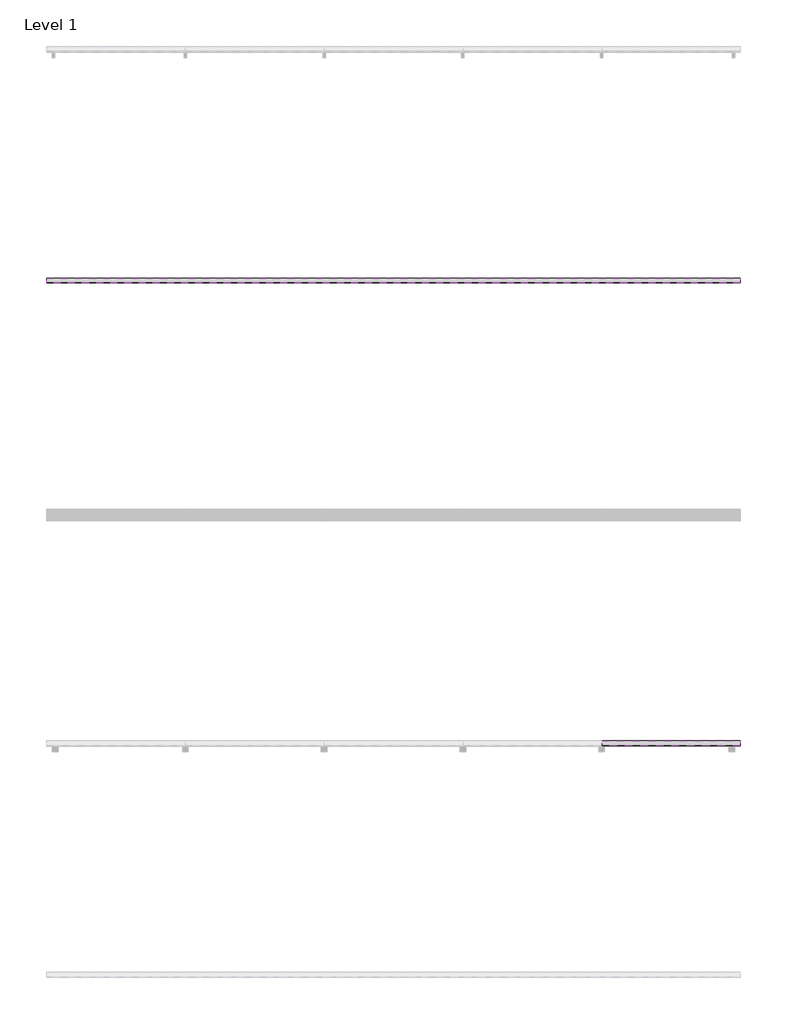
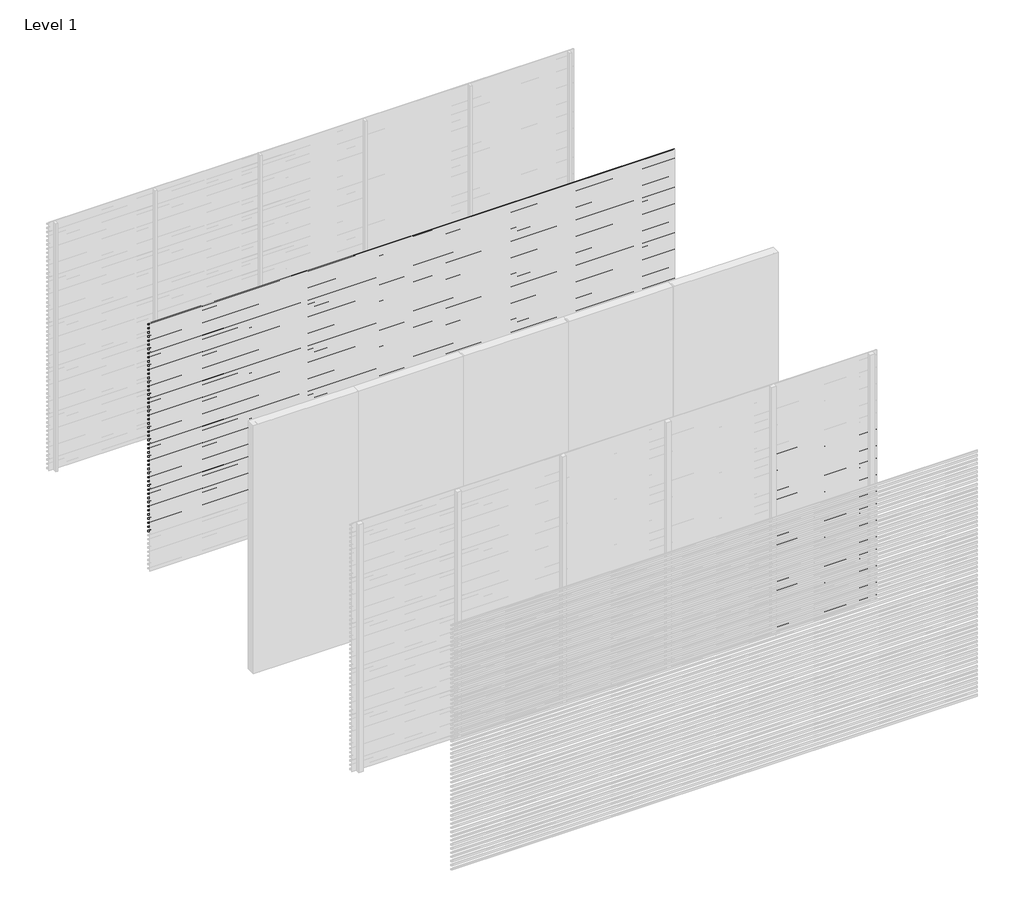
# One storey, part 9 of 16: 94 proxies.
"""IFC4 building model written with IfcOpenShell, lengths in millimetres."""

from ifc_helpers import new_model, si_unit, frame, origin, place, context, project, spatial, polyline, outline, extrude, element, save

model = new_model("IFC4")

# Units and contexts
model_context = context("Model", 3, world=origin())
ifc_project = project(units=[si_unit("LENGTHUNIT", "METRE", prefix="MILLI")], contexts=[model_context])

# Site, building, storey
site = spatial("IfcSite", under=ifc_project)
building = spatial("IfcBuilding", under=site)
storey = spatial("IfcBuildingStorey", under=building, Name="Level 1", Elevation=0.0)

# Proxies
placement = place(None, origin())
element("IfcBuildingElementProxy", 1, Name="Wall Sweeps", at=placement, inside=storey, context=model_context, shape_type="SweptSolid", body=[
    extrude(outline(polyline([(-7995.0, 3000.0), (-7995.0, 2989.6352854), (-7954.0, 2965.0), (-7954.0, 2950.0), (-7997.0, 2975.8370066), (-7997.0, 3000.0), (-7995.0, 3000.0)])), frame((0.0, 0.0, 0.0), z_axis=(1.0, 0.0, 0.0), x_axis=(0.0, 1.0, 0.0)), (0.0, 0.0, 1.0), 6000.0),
])
element("IfcBuildingElementProxy", 2, Name="Wall Sweeps", at=placement, inside=storey, context=model_context, shape_type="SweptSolid", body=[
    extrude(outline(polyline([(-7995.0, 2950.0), (-7995.0, 2939.6352854), (-7954.0, 2915.0), (-7954.0, 2900.0), (-7997.0, 2925.8370066), (-7997.0, 2950.0), (-7995.0, 2950.0)])), frame((0.0, 0.0, 0.0), z_axis=(1.0, 0.0, 0.0), x_axis=(0.0, 1.0, 0.0)), (0.0, 0.0, 1.0), 6000.0),
])
element("IfcBuildingElementProxy", 3, Name="Wall Sweeps", at=placement, inside=storey, context=model_context, shape_type="SweptSolid", body=[
    extrude(outline(polyline([(-7995.0, 2900.0), (-7995.0, 2889.6352854), (-7954.0, 2865.0), (-7954.0, 2850.0), (-7997.0, 2875.8370066), (-7997.0, 2900.0), (-7995.0, 2900.0)])), frame((0.0, 0.0, 0.0), z_axis=(1.0, 0.0, 0.0), x_axis=(0.0, 1.0, 0.0)), (0.0, 0.0, 1.0), 6000.0),
])
element("IfcBuildingElementProxy", 4, Name="Wall Sweeps", at=placement, inside=storey, context=model_context, shape_type="SweptSolid", body=[
    extrude(outline(polyline([(-7995.0, 2850.0), (-7995.0, 2839.6352854), (-7954.0, 2815.0), (-7954.0, 2800.0), (-7997.0, 2825.8370066), (-7997.0, 2850.0), (-7995.0, 2850.0)])), frame((0.0, 0.0, 0.0), z_axis=(1.0, 0.0, 0.0), x_axis=(0.0, 1.0, 0.0)), (0.0, 0.0, 1.0), 6000.0),
])
element("IfcBuildingElementProxy", 5, Name="Wall Sweeps", at=placement, inside=storey, context=model_context, shape_type="SweptSolid", body=[
    extrude(outline(polyline([(-7995.0, 2800.0), (-7995.0, 2789.6352854), (-7954.0, 2765.0), (-7954.0, 2750.0), (-7997.0, 2775.8370066), (-7997.0, 2800.0), (-7995.0, 2800.0)])), frame((0.0, 0.0, 0.0), z_axis=(1.0, 0.0, 0.0), x_axis=(0.0, 1.0, 0.0)), (0.0, 0.0, 1.0), 6000.0),
])
element("IfcBuildingElementProxy", 6, Name="Wall Sweeps", at=placement, inside=storey, context=model_context, shape_type="SweptSolid", body=[
    extrude(outline(polyline([(-7995.0, 2750.0), (-7995.0, 2739.6352854), (-7954.0, 2715.0), (-7954.0, 2700.0), (-7997.0, 2725.8370066), (-7997.0, 2750.0), (-7995.0, 2750.0)])), frame((0.0, 0.0, 0.0), z_axis=(1.0, 0.0, 0.0), x_axis=(0.0, 1.0, 0.0)), (0.0, 0.0, 1.0), 6000.0),
])
element("IfcBuildingElementProxy", 7, Name="Wall Sweeps", at=placement, inside=storey, context=model_context, shape_type="SweptSolid", body=[
    extrude(outline(polyline([(-7995.0, 2700.0), (-7995.0, 2689.6352854), (-7954.0, 2665.0), (-7954.0, 2650.0), (-7997.0, 2675.8370066), (-7997.0, 2700.0), (-7995.0, 2700.0)])), frame((0.0, 0.0, 0.0), z_axis=(1.0, 0.0, 0.0), x_axis=(0.0, 1.0, 0.0)), (0.0, 0.0, 1.0), 6000.0),
])
element("IfcBuildingElementProxy", 8, Name="Wall Sweeps", at=placement, inside=storey, context=model_context, shape_type="SweptSolid", body=[
    extrude(outline(polyline([(-7995.0, 2650.0), (-7995.0, 2639.6352854), (-7954.0, 2615.0), (-7954.0, 2600.0), (-7997.0, 2625.8370066), (-7997.0, 2650.0), (-7995.0, 2650.0)])), frame((0.0, 0.0, 0.0), z_axis=(1.0, 0.0, 0.0), x_axis=(0.0, 1.0, 0.0)), (0.0, 0.0, 1.0), 6000.0),
])
element("IfcBuildingElementProxy", 9, Name="Wall Sweeps", at=placement, inside=storey, context=model_context, shape_type="SweptSolid", body=[
    extrude(outline(polyline([(-7995.0, 2600.0), (-7995.0, 2589.6352854), (-7954.0, 2565.0), (-7954.0, 2550.0), (-7997.0, 2575.8370066), (-7997.0, 2600.0), (-7995.0, 2600.0)])), frame((0.0, 0.0, 0.0), z_axis=(1.0, 0.0, 0.0), x_axis=(0.0, 1.0, 0.0)), (0.0, 0.0, 1.0), 6000.0),
])
element("IfcBuildingElementProxy", 10, Name="Wall Sweeps", at=placement, inside=storey, context=model_context, shape_type="SweptSolid", body=[
    extrude(outline(polyline([(-7995.0, 2550.0), (-7995.0, 2539.6352854), (-7954.0, 2515.0), (-7954.0, 2500.0), (-7997.0, 2525.8370066), (-7997.0, 2550.0), (-7995.0, 2550.0)])), frame((0.0, 0.0, 0.0), z_axis=(1.0, 0.0, 0.0), x_axis=(0.0, 1.0, 0.0)), (0.0, 0.0, 1.0), 6000.0),
])
element("IfcBuildingElementProxy", 11, Name="Wall Sweeps", at=placement, inside=storey, context=model_context, shape_type="SweptSolid", body=[
    extrude(outline(polyline([(-7995.0, 2500.0), (-7995.0, 2489.6352854), (-7954.0, 2465.0), (-7954.0, 2450.0), (-7997.0, 2475.8370066), (-7997.0, 2500.0), (-7995.0, 2500.0)])), frame((0.0, 0.0, 0.0), z_axis=(1.0, 0.0, 0.0), x_axis=(0.0, 1.0, 0.0)), (0.0, 0.0, 1.0), 6000.0),
])
element("IfcBuildingElementProxy", 12, Name="Wall Sweeps", at=placement, inside=storey, context=model_context, shape_type="SweptSolid", body=[
    extrude(outline(polyline([(-7995.0, 2450.0), (-7995.0, 2439.6352854), (-7954.0, 2415.0), (-7954.0, 2400.0), (-7997.0, 2425.8370066), (-7997.0, 2450.0), (-7995.0, 2450.0)])), frame((0.0, 0.0, 0.0), z_axis=(1.0, 0.0, 0.0), x_axis=(0.0, 1.0, 0.0)), (0.0, 0.0, 1.0), 6000.0),
])
element("IfcBuildingElementProxy", 13, Name="Wall Sweeps", at=placement, inside=storey, context=model_context, shape_type="SweptSolid", body=[
    extrude(outline(polyline([(-7995.0, 2400.0), (-7995.0, 2389.6352854), (-7954.0, 2365.0), (-7954.0, 2350.0), (-7997.0, 2375.8370066), (-7997.0, 2400.0), (-7995.0, 2400.0)])), frame((0.0, 0.0, 0.0), z_axis=(1.0, 0.0, 0.0), x_axis=(0.0, 1.0, 0.0)), (0.0, 0.0, 1.0), 6000.0),
])
element("IfcBuildingElementProxy", 14, Name="Wall Sweeps", at=placement, inside=storey, context=model_context, shape_type="SweptSolid", body=[
    extrude(outline(polyline([(-7995.0, 2350.0), (-7995.0, 2339.6352854), (-7954.0, 2315.0), (-7954.0, 2300.0), (-7997.0, 2325.8370066), (-7997.0, 2350.0), (-7995.0, 2350.0)])), frame((0.0, 0.0, 0.0), z_axis=(1.0, 0.0, 0.0), x_axis=(0.0, 1.0, 0.0)), (0.0, 0.0, 1.0), 6000.0),
])
element("IfcBuildingElementProxy", 15, Name="Wall Sweeps", at=placement, inside=storey, context=model_context, shape_type="SweptSolid", body=[
    extrude(outline(polyline([(-7995.0, 2300.0), (-7995.0, 2289.6352854), (-7954.0, 2265.0), (-7954.0, 2250.0), (-7997.0, 2275.8370066), (-7997.0, 2300.0), (-7995.0, 2300.0)])), frame((0.0, 0.0, 0.0), z_axis=(1.0, 0.0, 0.0), x_axis=(0.0, 1.0, 0.0)), (0.0, 0.0, 1.0), 6000.0),
])
element("IfcBuildingElementProxy", 16, Name="Wall Sweeps", at=placement, inside=storey, context=model_context, shape_type="SweptSolid", body=[
    extrude(outline(polyline([(-7995.0, 2250.0), (-7995.0, 2239.6352854), (-7954.0, 2215.0), (-7954.0, 2200.0), (-7997.0, 2225.8370066), (-7997.0, 2250.0), (-7995.0, 2250.0)])), frame((0.0, 0.0, 0.0), z_axis=(1.0, 0.0, 0.0), x_axis=(0.0, 1.0, 0.0)), (0.0, 0.0, 1.0), 6000.0),
])
element("IfcBuildingElementProxy", 17, Name="Wall Sweeps", at=placement, inside=storey, context=model_context, shape_type="SweptSolid", body=[
    extrude(outline(polyline([(-7995.0, 2200.0), (-7995.0, 2189.6352854), (-7954.0, 2165.0), (-7954.0, 2150.0), (-7997.0, 2175.8370066), (-7997.0, 2200.0), (-7995.0, 2200.0)])), frame((0.0, 0.0, 0.0), z_axis=(1.0, 0.0, 0.0), x_axis=(0.0, 1.0, 0.0)), (0.0, 0.0, 1.0), 6000.0),
])
element("IfcBuildingElementProxy", 18, Name="Wall Sweeps", at=placement, inside=storey, context=model_context, shape_type="SweptSolid", body=[
    extrude(outline(polyline([(-7995.0, 2150.0), (-7995.0, 2139.6352854), (-7954.0, 2115.0), (-7954.0, 2100.0), (-7997.0, 2125.8370066), (-7997.0, 2150.0), (-7995.0, 2150.0)])), frame((0.0, 0.0, 0.0), z_axis=(1.0, 0.0, 0.0), x_axis=(0.0, 1.0, 0.0)), (0.0, 0.0, 1.0), 6000.0),
])
element("IfcBuildingElementProxy", 19, Name="Wall Sweeps", at=placement, inside=storey, context=model_context, shape_type="SweptSolid", body=[
    extrude(outline(polyline([(-7995.0, 2100.0), (-7995.0, 2089.6352854), (-7954.0, 2065.0), (-7954.0, 2050.0), (-7997.0, 2075.8370066), (-7997.0, 2100.0), (-7995.0, 2100.0)])), frame((0.0, 0.0, 0.0), z_axis=(1.0, 0.0, 0.0), x_axis=(0.0, 1.0, 0.0)), (0.0, 0.0, 1.0), 6000.0),
])
element("IfcBuildingElementProxy", 20, Name="Wall Sweeps", at=placement, inside=storey, context=model_context, shape_type="SweptSolid", body=[
    extrude(outline(polyline([(-7995.0, 2050.0), (-7995.0, 2039.6352854), (-7954.0, 2015.0), (-7954.0, 2000.0), (-7997.0, 2025.8370066), (-7997.0, 2050.0), (-7995.0, 2050.0)])), frame((0.0, 0.0, 0.0), z_axis=(1.0, 0.0, 0.0), x_axis=(0.0, 1.0, 0.0)), (0.0, 0.0, 1.0), 6000.0),
])
element("IfcBuildingElementProxy", 21, Name="Wall Sweeps", at=placement, inside=storey, context=model_context, shape_type="SweptSolid", body=[
    extrude(outline(polyline([(-7995.0, 2000.0), (-7995.0, 1989.6352854), (-7954.0, 1965.0), (-7954.0, 1950.0), (-7997.0, 1975.8370066), (-7997.0, 2000.0), (-7995.0, 2000.0)])), frame((0.0, 0.0, 0.0), z_axis=(1.0, 0.0, 0.0), x_axis=(0.0, 1.0, 0.0)), (0.0, 0.0, 1.0), 6000.0),
])
element("IfcBuildingElementProxy", 22, Name="Wall Sweeps", at=placement, inside=storey, context=model_context, shape_type="SweptSolid", body=[
    extrude(outline(polyline([(-7995.0, 1950.0), (-7995.0, 1939.6352854), (-7954.0, 1915.0), (-7954.0, 1900.0), (-7997.0, 1925.8370066), (-7997.0, 1950.0), (-7995.0, 1950.0)])), frame((0.0, 0.0, 0.0), z_axis=(1.0, 0.0, 0.0), x_axis=(0.0, 1.0, 0.0)), (0.0, 0.0, 1.0), 6000.0),
])
element("IfcBuildingElementProxy", 23, Name="Wall Sweeps", at=placement, inside=storey, context=model_context, shape_type="SweptSolid", body=[
    extrude(outline(polyline([(-7995.0, 1900.0), (-7995.0, 1889.6352854), (-7954.0, 1865.0), (-7954.0, 1850.0), (-7997.0, 1875.8370066), (-7997.0, 1900.0), (-7995.0, 1900.0)])), frame((0.0, 0.0, 0.0), z_axis=(1.0, 0.0, 0.0), x_axis=(0.0, 1.0, 0.0)), (0.0, 0.0, 1.0), 6000.0),
])
element("IfcBuildingElementProxy", 24, Name="Wall Sweeps", at=placement, inside=storey, context=model_context, shape_type="SweptSolid", body=[
    extrude(outline(polyline([(-7995.0, 1850.0), (-7995.0, 1839.6352854), (-7954.0, 1815.0), (-7954.0, 1800.0), (-7997.0, 1825.8370066), (-7997.0, 1850.0), (-7995.0, 1850.0)])), frame((0.0, 0.0, 0.0), z_axis=(1.0, 0.0, 0.0), x_axis=(0.0, 1.0, 0.0)), (0.0, 0.0, 1.0), 6000.0),
])
element("IfcBuildingElementProxy", 25, Name="Wall Sweeps", at=placement, inside=storey, context=model_context, shape_type="SweptSolid", body=[
    extrude(outline(polyline([(-7995.0, 1800.0), (-7995.0, 1789.6352854), (-7954.0, 1765.0), (-7954.0, 1750.0), (-7997.0, 1775.8370066), (-7997.0, 1800.0), (-7995.0, 1800.0)])), frame((0.0, 0.0, 0.0), z_axis=(1.0, 0.0, 0.0), x_axis=(0.0, 1.0, 0.0)), (0.0, 0.0, 1.0), 6000.0),
])
element("IfcBuildingElementProxy", 26, Name="Wall Sweeps", at=placement, inside=storey, context=model_context, shape_type="SweptSolid", body=[
    extrude(outline(polyline([(-7995.0, 1750.0), (-7995.0, 1739.6352854), (-7954.0, 1715.0), (-7954.0, 1700.0), (-7997.0, 1725.8370066), (-7997.0, 1750.0), (-7995.0, 1750.0)])), frame((0.0, 0.0, 0.0), z_axis=(1.0, 0.0, 0.0), x_axis=(0.0, 1.0, 0.0)), (0.0, 0.0, 1.0), 6000.0),
])
element("IfcBuildingElementProxy", 27, Name="Wall Sweeps", at=placement, inside=storey, context=model_context, shape_type="SweptSolid", body=[
    extrude(outline(polyline([(-7995.0, 1700.0), (-7995.0, 1689.6352854), (-7954.0, 1665.0), (-7954.0, 1650.0), (-7997.0, 1675.8370066), (-7997.0, 1700.0), (-7995.0, 1700.0)])), frame((0.0, 0.0, 0.0), z_axis=(1.0, 0.0, 0.0), x_axis=(0.0, 1.0, 0.0)), (0.0, 0.0, 1.0), 6000.0),
])
element("IfcBuildingElementProxy", 28, Name="Wall Sweeps", at=placement, inside=storey, context=model_context, shape_type="SweptSolid", body=[
    extrude(outline(polyline([(-7995.0, 1650.0), (-7995.0, 1639.6352854), (-7954.0, 1615.0), (-7954.0, 1600.0), (-7997.0, 1625.8370066), (-7997.0, 1650.0), (-7995.0, 1650.0)])), frame((0.0, 0.0, 0.0), z_axis=(1.0, 0.0, 0.0), x_axis=(0.0, 1.0, 0.0)), (0.0, 0.0, 1.0), 6000.0),
])
element("IfcBuildingElementProxy", 29, Name="Wall Sweeps", at=placement, inside=storey, context=model_context, shape_type="SweptSolid", body=[
    extrude(outline(polyline([(-7995.0, 1600.0), (-7995.0, 1589.6352854), (-7954.0, 1565.0), (-7954.0, 1550.0), (-7997.0, 1575.8370066), (-7997.0, 1600.0), (-7995.0, 1600.0)])), frame((0.0, 0.0, 0.0), z_axis=(1.0, 0.0, 0.0), x_axis=(0.0, 1.0, 0.0)), (0.0, 0.0, 1.0), 6000.0),
])
element("IfcBuildingElementProxy", 30, Name="Wall Sweeps", at=placement, inside=storey, context=model_context, shape_type="SweptSolid", body=[
    extrude(outline(polyline([(-7995.0, 1550.0), (-7995.0, 1539.6352854), (-7954.0, 1515.0), (-7954.0, 1500.0), (-7997.0, 1525.8370066), (-7997.0, 1550.0), (-7995.0, 1550.0)])), frame((0.0, 0.0, 0.0), z_axis=(1.0, 0.0, 0.0), x_axis=(0.0, 1.0, 0.0)), (0.0, 0.0, 1.0), 6000.0),
])
element("IfcBuildingElementProxy", 31, Name="Wall Sweeps", at=placement, inside=storey, context=model_context, shape_type="SweptSolid", body=[
    extrude(outline(polyline([(-7995.0, 1500.0), (-7995.0, 1489.6352854), (-7954.0, 1465.0), (-7954.0, 1450.0), (-7997.0, 1475.8370066), (-7997.0, 1500.0), (-7995.0, 1500.0)])), frame((0.0, 0.0, 0.0), z_axis=(1.0, 0.0, 0.0), x_axis=(0.0, 1.0, 0.0)), (0.0, 0.0, 1.0), 6000.0),
])
element("IfcBuildingElementProxy", 32, Name="Wall Sweeps", at=placement, inside=storey, context=model_context, shape_type="SweptSolid", body=[
    extrude(outline(polyline([(-7995.0, 1450.0), (-7995.0, 1439.6352854), (-7954.0, 1415.0), (-7954.0, 1400.0), (-7997.0, 1425.8370066), (-7997.0, 1450.0), (-7995.0, 1450.0)])), frame((0.0, 0.0, 0.0), z_axis=(1.0, 0.0, 0.0), x_axis=(0.0, 1.0, 0.0)), (0.0, 0.0, 1.0), 6000.0),
])
element("IfcBuildingElementProxy", 33, Name="Wall Sweeps", at=placement, inside=storey, context=model_context, shape_type="SweptSolid", body=[
    extrude(outline(polyline([(-7995.0, 1400.0), (-7995.0, 1389.6352854), (-7954.0, 1365.0), (-7954.0, 1350.0), (-7997.0, 1375.8370066), (-7997.0, 1400.0), (-7995.0, 1400.0)])), frame((0.0, 0.0, 0.0), z_axis=(1.0, 0.0, 0.0), x_axis=(0.0, 1.0, 0.0)), (0.0, 0.0, 1.0), 6000.0),
])
element("IfcBuildingElementProxy", 34, Name="Wall Sweeps", at=placement, inside=storey, context=model_context, shape_type="SweptSolid", body=[
    extrude(outline(polyline([(-7995.0, 1350.0), (-7995.0, 1339.6352854), (-7954.0, 1315.0), (-7954.0, 1300.0), (-7997.0, 1325.8370066), (-7997.0, 1350.0), (-7995.0, 1350.0)])), frame((0.0, 0.0, 0.0), z_axis=(1.0, 0.0, 0.0), x_axis=(0.0, 1.0, 0.0)), (0.0, 0.0, 1.0), 6000.0),
])
element("IfcBuildingElementProxy", 35, Name="Wall Sweeps", at=placement, inside=storey, context=model_context, shape_type="SweptSolid", body=[
    extrude(outline(polyline([(-7995.0, 1300.0), (-7995.0, 1289.6352854), (-7954.0, 1265.0), (-7954.0, 1250.0), (-7997.0, 1275.8370066), (-7997.0, 1300.0), (-7995.0, 1300.0)])), frame((0.0, 0.0, 0.0), z_axis=(1.0, 0.0, 0.0), x_axis=(0.0, 1.0, 0.0)), (0.0, 0.0, 1.0), 6000.0),
])
element("IfcBuildingElementProxy", 36, Name="Wall Sweeps", at=placement, inside=storey, context=model_context, shape_type="SweptSolid", body=[
    extrude(outline(polyline([(-7995.0, 1250.0), (-7995.0, 1239.6352854), (-7954.0, 1215.0), (-7954.0, 1200.0), (-7997.0, 1225.8370066), (-7997.0, 1250.0), (-7995.0, 1250.0)])), frame((0.0, 0.0, 0.0), z_axis=(1.0, 0.0, 0.0), x_axis=(0.0, 1.0, 0.0)), (0.0, 0.0, 1.0), 6000.0),
])
element("IfcBuildingElementProxy", 37, Name="Wall Sweeps", at=placement, inside=storey, context=model_context, shape_type="SweptSolid", body=[
    extrude(outline(polyline([(-7995.0, 1200.0), (-7995.0, 1189.6352854), (-7954.0, 1165.0), (-7954.0, 1150.0), (-7997.0, 1175.8370066), (-7997.0, 1200.0), (-7995.0, 1200.0)])), frame((0.0, 0.0, 0.0), z_axis=(1.0, 0.0, 0.0), x_axis=(0.0, 1.0, 0.0)), (0.0, 0.0, 1.0), 6000.0),
])
element("IfcBuildingElementProxy", 38, Name="Wall Sweeps", at=placement, inside=storey, context=model_context, shape_type="SweptSolid", body=[
    extrude(outline(polyline([(-7995.0, 1150.0), (-7995.0, 1139.6352854), (-7954.0, 1115.0), (-7954.0, 1100.0), (-7997.0, 1125.8370066), (-7997.0, 1150.0), (-7995.0, 1150.0)])), frame((0.0, 0.0, 0.0), z_axis=(1.0, 0.0, 0.0), x_axis=(0.0, 1.0, 0.0)), (0.0, 0.0, 1.0), 6000.0),
])
element("IfcBuildingElementProxy", 39, Name="Wall Sweeps", at=placement, inside=storey, context=model_context, shape_type="SweptSolid", body=[
    extrude(outline(polyline([(-7995.0, 1100.0), (-7995.0, 1089.6352854), (-7954.0, 1065.0), (-7954.0, 1050.0), (-7997.0, 1075.8370066), (-7997.0, 1100.0), (-7995.0, 1100.0)])), frame((0.0, 0.0, 0.0), z_axis=(1.0, 0.0, 0.0), x_axis=(0.0, 1.0, 0.0)), (0.0, 0.0, 1.0), 6000.0),
])
element("IfcBuildingElementProxy", 40, Name="Wall Sweeps", at=placement, inside=storey, context=model_context, shape_type="SweptSolid", body=[
    extrude(outline(polyline([(-7995.0, 1050.0), (-7995.0, 1039.6352854), (-7954.0, 1015.0), (-7954.0, 1000.0), (-7997.0, 1025.8370066), (-7997.0, 1050.0), (-7995.0, 1050.0)])), frame((0.0, 0.0, 0.0), z_axis=(1.0, 0.0, 0.0), x_axis=(0.0, 1.0, 0.0)), (0.0, 0.0, 1.0), 6000.0),
])
element("IfcBuildingElementProxy", 41, Name="Wall Sweeps", at=placement, inside=storey, context=model_context, shape_type="SweptSolid", body=[
    extrude(outline(polyline([(-7995.0, 1000.0), (-7995.0, 989.6352854), (-7954.0, 965.0), (-7954.0, 950.0), (-7997.0, 975.8370066), (-7997.0, 1000.0), (-7995.0, 1000.0)])), frame((0.0, 0.0, 0.0), z_axis=(1.0, 0.0, 0.0), x_axis=(0.0, 1.0, 0.0)), (0.0, 0.0, 1.0), 6000.0),
])
element("IfcBuildingElementProxy", 42, Name="Wall Sweeps", at=placement, inside=storey, context=model_context, shape_type="SweptSolid", body=[
    extrude(outline(polyline([(-7995.0, 950.0), (-7995.0, 939.6352854), (-7954.0, 915.0), (-7954.0, 900.0), (-7997.0, 925.8370066), (-7997.0, 950.0), (-7995.0, 950.0)])), frame((0.0, 0.0, 0.0), z_axis=(1.0, 0.0, 0.0), x_axis=(0.0, 1.0, 0.0)), (0.0, 0.0, 1.0), 6000.0),
])
element("IfcBuildingElementProxy", 43, Name="Wall Sweeps", at=placement, inside=storey, context=model_context, shape_type="SweptSolid", body=[
    extrude(outline(polyline([(-7995.0, 900.0), (-7995.0, 889.6352854), (-7954.0, 865.0), (-7954.0, 850.0), (-7997.0, 875.8370066), (-7997.0, 900.0), (-7995.0, 900.0)])), frame((0.0, 0.0, 0.0), z_axis=(1.0, 0.0, 0.0), x_axis=(0.0, 1.0, 0.0)), (0.0, 0.0, 1.0), 6000.0),
])
element("IfcBuildingElementProxy", 44, Name="Wall Sweeps", at=placement, inside=storey, context=model_context, shape_type="SweptSolid", body=[
    extrude(outline(polyline([(-7995.0, 850.0), (-7995.0, 839.6352854), (-7954.0, 815.0), (-7954.0, 800.0), (-7997.0, 825.8370066), (-7997.0, 850.0), (-7995.0, 850.0)])), frame((0.0, 0.0, 0.0), z_axis=(1.0, 0.0, 0.0), x_axis=(0.0, 1.0, 0.0)), (0.0, 0.0, 1.0), 6000.0),
])
element("IfcBuildingElementProxy", 45, Name="Wall Sweeps", at=placement, inside=storey, context=model_context, shape_type="SweptSolid", body=[
    extrude(outline(polyline([(-7995.0, 800.0), (-7995.0, 789.6352854), (-7954.0, 765.0), (-7954.0, 750.0), (-7997.0, 775.8370066), (-7997.0, 800.0), (-7995.0, 800.0)])), frame((0.0, 0.0, 0.0), z_axis=(1.0, 0.0, 0.0), x_axis=(0.0, 1.0, 0.0)), (0.0, 0.0, 1.0), 6000.0),
])
element("IfcBuildingElementProxy", 46, Name="Wall Sweeps", at=placement, inside=storey, context=model_context, shape_type="SweptSolid", body=[
    extrude(outline(polyline([(-7995.0, 750.0), (-7995.0, 739.6352854), (-7954.0, 715.0), (-7954.0, 700.0), (-7997.0, 725.8370066), (-7997.0, 750.0), (-7995.0, 750.0)])), frame((0.0, 0.0, 0.0), z_axis=(1.0, 0.0, 0.0), x_axis=(0.0, 1.0, 0.0)), (0.0, 0.0, 1.0), 6000.0),
])
element("IfcBuildingElementProxy", 47, Name="Wall Sweeps", at=placement, inside=storey, context=model_context, shape_type="SweptSolid", body=[
    extrude(outline(polyline([(-7995.0, 700.0), (-7995.0, 689.6352854), (-7954.0, 665.0), (-7954.0, 650.0), (-7997.0, 675.8370066), (-7997.0, 700.0), (-7995.0, 700.0)])), frame((0.0, 0.0, 0.0), z_axis=(1.0, 0.0, 0.0), x_axis=(0.0, 1.0, 0.0)), (0.0, 0.0, 1.0), 6000.0),
])
element("IfcBuildingElementProxy", 48, Name="Wall Sweeps", at=placement, inside=storey, context=model_context, shape_type="SweptSolid", body=[
    extrude(outline(polyline([(-7995.0, 650.0), (-7995.0, 639.6352854), (-7954.0, 615.0), (-7954.0, 600.0), (-7997.0, 625.8370066), (-7997.0, 650.0), (-7995.0, 650.0)])), frame((0.0, 0.0, 0.0), z_axis=(1.0, 0.0, 0.0), x_axis=(0.0, 1.0, 0.0)), (0.0, 0.0, 1.0), 6000.0),
])
element("IfcBuildingElementProxy", 49, Name="Wall Sweeps", at=placement, inside=storey, context=model_context, shape_type="SweptSolid", body=[
    extrude(outline(polyline([(-7995.0, 600.0), (-7995.0, 589.6352854), (-7954.0, 565.0), (-7954.0, 550.0), (-7997.0, 575.8370066), (-7997.0, 600.0), (-7995.0, 600.0)])), frame((0.0, 0.0, 0.0), z_axis=(1.0, 0.0, 0.0), x_axis=(0.0, 1.0, 0.0)), (0.0, 0.0, 1.0), 6000.0),
])
element("IfcBuildingElementProxy", 50, Name="Wall Sweeps", at=placement, inside=storey, context=model_context, shape_type="SweptSolid", body=[
    extrude(outline(polyline([(-7995.0, 550.0), (-7995.0, 539.6352854), (-7954.0, 515.0), (-7954.0, 500.0), (-7997.0, 525.8370066), (-7997.0, 550.0), (-7995.0, 550.0)])), frame((0.0, 0.0, 0.0), z_axis=(1.0, 0.0, 0.0), x_axis=(0.0, 1.0, 0.0)), (0.0, 0.0, 1.0), 6000.0),
])
element("IfcBuildingElementProxy", 51, Name="Wall Sweeps", at=placement, inside=storey, context=model_context, shape_type="SweptSolid", body=[
    extrude(outline(polyline([(-7995.0, 500.0), (-7995.0, 489.6352854), (-7954.0, 465.0), (-7954.0, 450.0), (-7997.0, 475.8370066), (-7997.0, 500.0), (-7995.0, 500.0)])), frame((0.0, 0.0, 0.0), z_axis=(1.0, 0.0, 0.0), x_axis=(0.0, 1.0, 0.0)), (0.0, 0.0, 1.0), 6000.0),
])
element("IfcBuildingElementProxy", 52, Name="Wall Sweeps", at=placement, inside=storey, context=model_context, shape_type="SweptSolid", body=[
    extrude(outline(polyline([(-11995.0, 2150.0), (-11995.0, 2139.6352854), (-11954.0, 2115.0), (-11954.0, 2100.0), (-11997.0, 2125.8370066), (-11997.0, 2150.0), (-11995.0, 2150.0)])), frame((4800.0, 0.0, 0.0), z_axis=(1.0, 0.0, 0.0), x_axis=(0.0, 1.0, 0.0)), (0.0, 0.0, 1.0), 1200.0),
])
element("IfcBuildingElementProxy", 53, Name="Wall Sweeps", at=placement, inside=storey, context=model_context, shape_type="SweptSolid", body=[
    extrude(outline(polyline([(-11995.0, 2100.0), (-11995.0, 2089.6352854), (-11954.0, 2065.0), (-11954.0, 2050.0), (-11997.0, 2075.8370066), (-11997.0, 2100.0), (-11995.0, 2100.0)])), frame((4800.0, 0.0, 0.0), z_axis=(1.0, 0.0, 0.0), x_axis=(0.0, 1.0, 0.0)), (0.0, 0.0, 1.0), 1200.0),
])
element("IfcBuildingElementProxy", 54, Name="Wall Sweeps", at=placement, inside=storey, context=model_context, shape_type="SweptSolid", body=[
    extrude(outline(polyline([(-11995.0, 2050.0), (-11995.0, 2039.6352854), (-11954.0, 2015.0), (-11954.0, 2000.0), (-11997.0, 2025.8370066), (-11997.0, 2050.0), (-11995.0, 2050.0)])), frame((4800.0, 0.0, 0.0), z_axis=(1.0, 0.0, 0.0), x_axis=(0.0, 1.0, 0.0)), (0.0, 0.0, 1.0), 1200.0),
])
element("IfcBuildingElementProxy", 55, Name="Wall Sweeps", at=placement, inside=storey, context=model_context, shape_type="SweptSolid", body=[
    extrude(outline(polyline([(-11995.0, 2000.0), (-11995.0, 1989.6352854), (-11954.0, 1965.0), (-11954.0, 1950.0), (-11997.0, 1975.8370066), (-11997.0, 2000.0), (-11995.0, 2000.0)])), frame((4800.0, 0.0, 0.0), z_axis=(1.0, 0.0, 0.0), x_axis=(0.0, 1.0, 0.0)), (0.0, 0.0, 1.0), 1200.0),
])
element("IfcBuildingElementProxy", 56, Name="Wall Sweeps", at=placement, inside=storey, context=model_context, shape_type="SweptSolid", body=[
    extrude(outline(polyline([(-11995.0, 1950.0), (-11995.0, 1939.6352854), (-11954.0, 1915.0), (-11954.0, 1900.0), (-11997.0, 1925.8370066), (-11997.0, 1950.0), (-11995.0, 1950.0)])), frame((4800.0, 0.0, 0.0), z_axis=(1.0, 0.0, 0.0), x_axis=(0.0, 1.0, 0.0)), (0.0, 0.0, 1.0), 1200.0),
])
element("IfcBuildingElementProxy", 57, Name="Wall Sweeps", at=placement, inside=storey, context=model_context, shape_type="SweptSolid", body=[
    extrude(outline(polyline([(-11995.0, 1900.0), (-11995.0, 1889.6352854), (-11954.0, 1865.0), (-11954.0, 1850.0), (-11997.0, 1875.8370066), (-11997.0, 1900.0), (-11995.0, 1900.0)])), frame((4800.0, 0.0, 0.0), z_axis=(1.0, 0.0, 0.0), x_axis=(0.0, 1.0, 0.0)), (0.0, 0.0, 1.0), 1200.0),
])
element("IfcBuildingElementProxy", 58, Name="Wall Sweeps", at=placement, inside=storey, context=model_context, shape_type="SweptSolid", body=[
    extrude(outline(polyline([(-11995.0, 1850.0), (-11995.0, 1839.6352854), (-11954.0, 1815.0), (-11954.0, 1800.0), (-11997.0, 1825.8370066), (-11997.0, 1850.0), (-11995.0, 1850.0)])), frame((4800.0, 0.0, 0.0), z_axis=(1.0, 0.0, 0.0), x_axis=(0.0, 1.0, 0.0)), (0.0, 0.0, 1.0), 1200.0),
])
element("IfcBuildingElementProxy", 59, Name="Wall Sweeps", at=placement, inside=storey, context=model_context, shape_type="SweptSolid", body=[
    extrude(outline(polyline([(-11995.0, 1800.0), (-11995.0, 1789.6352854), (-11954.0, 1765.0), (-11954.0, 1750.0), (-11997.0, 1775.8370066), (-11997.0, 1800.0), (-11995.0, 1800.0)])), frame((4800.0, 0.0, 0.0), z_axis=(1.0, 0.0, 0.0), x_axis=(0.0, 1.0, 0.0)), (0.0, 0.0, 1.0), 1200.0),
])
element("IfcBuildingElementProxy", 60, Name="Wall Sweeps", at=placement, inside=storey, context=model_context, shape_type="SweptSolid", body=[
    extrude(outline(polyline([(-11995.0, 1750.0), (-11995.0, 1739.6352854), (-11954.0, 1715.0), (-11954.0, 1700.0), (-11997.0, 1725.8370066), (-11997.0, 1750.0), (-11995.0, 1750.0)])), frame((4800.0, 0.0, 0.0), z_axis=(1.0, 0.0, 0.0), x_axis=(0.0, 1.0, 0.0)), (0.0, 0.0, 1.0), 1200.0),
])
element("IfcBuildingElementProxy", 61, Name="Wall Sweeps", at=placement, inside=storey, context=model_context, shape_type="SweptSolid", body=[
    extrude(outline(polyline([(-11995.0, 1700.0), (-11995.0, 1689.6352854), (-11954.0, 1665.0), (-11954.0, 1650.0), (-11997.0, 1675.8370066), (-11997.0, 1700.0), (-11995.0, 1700.0)])), frame((4800.0, 0.0, 0.0), z_axis=(1.0, 0.0, 0.0), x_axis=(0.0, 1.0, 0.0)), (0.0, 0.0, 1.0), 1200.0),
])
element("IfcBuildingElementProxy", 62, Name="Wall Sweeps", at=placement, inside=storey, context=model_context, shape_type="SweptSolid", body=[
    extrude(outline(polyline([(-11995.0, 1650.0), (-11995.0, 1639.6352854), (-11954.0, 1615.0), (-11954.0, 1600.0), (-11997.0, 1625.8370066), (-11997.0, 1650.0), (-11995.0, 1650.0)])), frame((4800.0, 0.0, 0.0), z_axis=(1.0, 0.0, 0.0), x_axis=(0.0, 1.0, 0.0)), (0.0, 0.0, 1.0), 1200.0),
])
element("IfcBuildingElementProxy", 63, Name="Wall Sweeps", at=placement, inside=storey, context=model_context, shape_type="SweptSolid", body=[
    extrude(outline(polyline([(-11995.0, 1600.0), (-11995.0, 1589.6352854), (-11954.0, 1565.0), (-11954.0, 1550.0), (-11997.0, 1575.8370066), (-11997.0, 1600.0), (-11995.0, 1600.0)])), frame((4800.0, 0.0, 0.0), z_axis=(1.0, 0.0, 0.0), x_axis=(0.0, 1.0, 0.0)), (0.0, 0.0, 1.0), 1200.0),
])
element("IfcBuildingElementProxy", 64, Name="Wall Sweeps", at=placement, inside=storey, context=model_context, shape_type="SweptSolid", body=[
    extrude(outline(polyline([(-11995.0, 1550.0), (-11995.0, 1539.6352854), (-11954.0, 1515.0), (-11954.0, 1500.0), (-11997.0, 1525.8370066), (-11997.0, 1550.0), (-11995.0, 1550.0)])), frame((4800.0, 0.0, 0.0), z_axis=(1.0, 0.0, 0.0), x_axis=(0.0, 1.0, 0.0)), (0.0, 0.0, 1.0), 1200.0),
])
element("IfcBuildingElementProxy", 65, Name="Wall Sweeps", at=placement, inside=storey, context=model_context, shape_type="SweptSolid", body=[
    extrude(outline(polyline([(-11995.0, 1500.0), (-11995.0, 1489.6352854), (-11954.0, 1465.0), (-11954.0, 1450.0), (-11997.0, 1475.8370066), (-11997.0, 1500.0), (-11995.0, 1500.0)])), frame((4800.0, 0.0, 0.0), z_axis=(1.0, 0.0, 0.0), x_axis=(0.0, 1.0, 0.0)), (0.0, 0.0, 1.0), 1200.0),
])
element("IfcBuildingElementProxy", 66, Name="Wall Sweeps", at=placement, inside=storey, context=model_context, shape_type="SweptSolid", body=[
    extrude(outline(polyline([(-11995.0, 1450.0), (-11995.0, 1439.6352854), (-11954.0, 1415.0), (-11954.0, 1400.0), (-11997.0, 1425.8370066), (-11997.0, 1450.0), (-11995.0, 1450.0)])), frame((4800.0, 0.0, 0.0), z_axis=(1.0, 0.0, 0.0), x_axis=(0.0, 1.0, 0.0)), (0.0, 0.0, 1.0), 1200.0),
])
element("IfcBuildingElementProxy", 67, Name="Wall Sweeps", at=placement, inside=storey, context=model_context, shape_type="SweptSolid", body=[
    extrude(outline(polyline([(-11995.0, 1400.0), (-11995.0, 1389.6352854), (-11954.0, 1365.0), (-11954.0, 1350.0), (-11997.0, 1375.8370066), (-11997.0, 1400.0), (-11995.0, 1400.0)])), frame((4800.0, 0.0, 0.0), z_axis=(1.0, 0.0, 0.0), x_axis=(0.0, 1.0, 0.0)), (0.0, 0.0, 1.0), 1200.0),
])
element("IfcBuildingElementProxy", 68, Name="Wall Sweeps", at=placement, inside=storey, context=model_context, shape_type="SweptSolid", body=[
    extrude(outline(polyline([(-11995.0, 1350.0), (-11995.0, 1339.6352854), (-11954.0, 1315.0), (-11954.0, 1300.0), (-11997.0, 1325.8370066), (-11997.0, 1350.0), (-11995.0, 1350.0)])), frame((4800.0, 0.0, 0.0), z_axis=(1.0, 0.0, 0.0), x_axis=(0.0, 1.0, 0.0)), (0.0, 0.0, 1.0), 1200.0),
])
element("IfcBuildingElementProxy", 69, Name="Wall Sweeps", at=placement, inside=storey, context=model_context, shape_type="SweptSolid", body=[
    extrude(outline(polyline([(-11995.0, 1300.0), (-11995.0, 1289.6352854), (-11954.0, 1265.0), (-11954.0, 1250.0), (-11997.0, 1275.8370066), (-11997.0, 1300.0), (-11995.0, 1300.0)])), frame((4800.0, 0.0, 0.0), z_axis=(1.0, 0.0, 0.0), x_axis=(0.0, 1.0, 0.0)), (0.0, 0.0, 1.0), 1200.0),
])
element("IfcBuildingElementProxy", 70, Name="Wall Sweeps", at=placement, inside=storey, context=model_context, shape_type="SweptSolid", body=[
    extrude(outline(polyline([(-11995.0, 1250.0), (-11995.0, 1239.6352854), (-11954.0, 1215.0), (-11954.0, 1200.0), (-11997.0, 1225.8370066), (-11997.0, 1250.0), (-11995.0, 1250.0)])), frame((4800.0, 0.0, 0.0), z_axis=(1.0, 0.0, 0.0), x_axis=(0.0, 1.0, 0.0)), (0.0, 0.0, 1.0), 1200.0),
])
element("IfcBuildingElementProxy", 71, Name="Wall Sweeps", at=placement, inside=storey, context=model_context, shape_type="SweptSolid", body=[
    extrude(outline(polyline([(-11995.0, 1200.0), (-11995.0, 1189.6352854), (-11954.0, 1165.0), (-11954.0, 1150.0), (-11997.0, 1175.8370066), (-11997.0, 1200.0), (-11995.0, 1200.0)])), frame((4800.0, 0.0, 0.0), z_axis=(1.0, 0.0, 0.0), x_axis=(0.0, 1.0, 0.0)), (0.0, 0.0, 1.0), 1200.0),
])
element("IfcBuildingElementProxy", 72, Name="Wall Sweeps", at=placement, inside=storey, context=model_context, shape_type="SweptSolid", body=[
    extrude(outline(polyline([(-11995.0, 1150.0), (-11995.0, 1139.6352854), (-11954.0, 1115.0), (-11954.0, 1100.0), (-11997.0, 1125.8370066), (-11997.0, 1150.0), (-11995.0, 1150.0)])), frame((4800.0, 0.0, 0.0), z_axis=(1.0, 0.0, 0.0), x_axis=(0.0, 1.0, 0.0)), (0.0, 0.0, 1.0), 1200.0),
])
element("IfcBuildingElementProxy", 73, Name="Wall Sweeps", at=placement, inside=storey, context=model_context, shape_type="SweptSolid", body=[
    extrude(outline(polyline([(-11995.0, 1100.0), (-11995.0, 1089.6352854), (-11954.0, 1065.0), (-11954.0, 1050.0), (-11997.0, 1075.8370066), (-11997.0, 1100.0), (-11995.0, 1100.0)])), frame((4800.0, 0.0, 0.0), z_axis=(1.0, 0.0, 0.0), x_axis=(0.0, 1.0, 0.0)), (0.0, 0.0, 1.0), 1200.0),
])
element("IfcBuildingElementProxy", 74, Name="Wall Sweeps", at=placement, inside=storey, context=model_context, shape_type="SweptSolid", body=[
    extrude(outline(polyline([(-11995.0, 1050.0), (-11995.0, 1039.6352854), (-11954.0, 1015.0), (-11954.0, 1000.0), (-11997.0, 1025.8370066), (-11997.0, 1050.0), (-11995.0, 1050.0)])), frame((4800.0, 0.0, 0.0), z_axis=(1.0, 0.0, 0.0), x_axis=(0.0, 1.0, 0.0)), (0.0, 0.0, 1.0), 1200.0),
])
element("IfcBuildingElementProxy", 75, Name="Wall Sweeps", at=placement, inside=storey, context=model_context, shape_type="SweptSolid", body=[
    extrude(outline(polyline([(-11995.0, 1000.0), (-11995.0, 989.6352854), (-11954.0, 965.0), (-11954.0, 950.0), (-11997.0, 975.8370066), (-11997.0, 1000.0), (-11995.0, 1000.0)])), frame((4800.0, 0.0, 0.0), z_axis=(1.0, 0.0, 0.0), x_axis=(0.0, 1.0, 0.0)), (0.0, 0.0, 1.0), 1200.0),
])
element("IfcBuildingElementProxy", 76, Name="Wall Sweeps", at=placement, inside=storey, context=model_context, shape_type="SweptSolid", body=[
    extrude(outline(polyline([(-11995.0, 950.0), (-11995.0, 939.6352854), (-11954.0, 915.0), (-11954.0, 900.0), (-11997.0, 925.8370066), (-11997.0, 950.0), (-11995.0, 950.0)])), frame((4800.0, 0.0, 0.0), z_axis=(1.0, 0.0, 0.0), x_axis=(0.0, 1.0, 0.0)), (0.0, 0.0, 1.0), 1200.0),
])
element("IfcBuildingElementProxy", 77, Name="Wall Sweeps", at=placement, inside=storey, context=model_context, shape_type="SweptSolid", body=[
    extrude(outline(polyline([(-11995.0, 900.0), (-11995.0, 889.6352854), (-11954.0, 865.0), (-11954.0, 850.0), (-11997.0, 875.8370066), (-11997.0, 900.0), (-11995.0, 900.0)])), frame((4800.0, 0.0, 0.0), z_axis=(1.0, 0.0, 0.0), x_axis=(0.0, 1.0, 0.0)), (0.0, 0.0, 1.0), 1200.0),
])
element("IfcBuildingElementProxy", 78, Name="Wall Sweeps", at=placement, inside=storey, context=model_context, shape_type="SweptSolid", body=[
    extrude(outline(polyline([(-11995.0, 850.0), (-11995.0, 839.6352854), (-11954.0, 815.0), (-11954.0, 800.0), (-11997.0, 825.8370066), (-11997.0, 850.0), (-11995.0, 850.0)])), frame((4800.0, 0.0, 0.0), z_axis=(1.0, 0.0, 0.0), x_axis=(0.0, 1.0, 0.0)), (0.0, 0.0, 1.0), 1200.0),
])
element("IfcBuildingElementProxy", 79, Name="Wall Sweeps", at=placement, inside=storey, context=model_context, shape_type="SweptSolid", body=[
    extrude(outline(polyline([(-11995.0, 800.0), (-11995.0, 789.6352854), (-11954.0, 765.0), (-11954.0, 750.0), (-11997.0, 775.8370066), (-11997.0, 800.0), (-11995.0, 800.0)])), frame((4800.0, 0.0, 0.0), z_axis=(1.0, 0.0, 0.0), x_axis=(0.0, 1.0, 0.0)), (0.0, 0.0, 1.0), 1200.0),
])
element("IfcBuildingElementProxy", 80, Name="Wall Sweeps", at=placement, inside=storey, context=model_context, shape_type="SweptSolid", body=[
    extrude(outline(polyline([(-11995.0, 750.0), (-11995.0, 739.6352854), (-11954.0, 715.0), (-11954.0, 700.0), (-11997.0, 725.8370066), (-11997.0, 750.0), (-11995.0, 750.0)])), frame((4800.0, 0.0, 0.0), z_axis=(1.0, 0.0, 0.0), x_axis=(0.0, 1.0, 0.0)), (0.0, 0.0, 1.0), 1200.0),
])
element("IfcBuildingElementProxy", 81, Name="Wall Sweeps", at=placement, inside=storey, context=model_context, shape_type="SweptSolid", body=[
    extrude(outline(polyline([(-11995.0, 700.0), (-11995.0, 689.6352854), (-11954.0, 665.0), (-11954.0, 650.0), (-11997.0, 675.8370066), (-11997.0, 700.0), (-11995.0, 700.0)])), frame((4800.0, 0.0, 0.0), z_axis=(1.0, 0.0, 0.0), x_axis=(0.0, 1.0, 0.0)), (0.0, 0.0, 1.0), 1200.0),
])
element("IfcBuildingElementProxy", 82, Name="Wall Sweeps", at=placement, inside=storey, context=model_context, shape_type="SweptSolid", body=[
    extrude(outline(polyline([(-11995.0, 650.0), (-11995.0, 639.6352854), (-11954.0, 615.0), (-11954.0, 600.0), (-11997.0, 625.8370066), (-11997.0, 650.0), (-11995.0, 650.0)])), frame((4800.0, 0.0, 0.0), z_axis=(1.0, 0.0, 0.0), x_axis=(0.0, 1.0, 0.0)), (0.0, 0.0, 1.0), 1200.0),
])
element("IfcBuildingElementProxy", 83, Name="Wall Sweeps", at=placement, inside=storey, context=model_context, shape_type="SweptSolid", body=[
    extrude(outline(polyline([(-11995.0, 600.0), (-11995.0, 589.6352854), (-11954.0, 565.0), (-11954.0, 550.0), (-11997.0, 575.8370066), (-11997.0, 600.0), (-11995.0, 600.0)])), frame((4800.0, 0.0, 0.0), z_axis=(1.0, 0.0, 0.0), x_axis=(0.0, 1.0, 0.0)), (0.0, 0.0, 1.0), 1200.0),
])
element("IfcBuildingElementProxy", 84, Name="Wall Sweeps", at=placement, inside=storey, context=model_context, shape_type="SweptSolid", body=[
    extrude(outline(polyline([(-11995.0, 550.0), (-11995.0, 539.6352854), (-11954.0, 515.0), (-11954.0, 500.0), (-11997.0, 525.8370066), (-11997.0, 550.0), (-11995.0, 550.0)])), frame((4800.0, 0.0, 0.0), z_axis=(1.0, 0.0, 0.0), x_axis=(0.0, 1.0, 0.0)), (0.0, 0.0, 1.0), 1200.0),
])
element("IfcBuildingElementProxy", 85, Name="Wall Sweeps", at=placement, inside=storey, context=model_context, shape_type="SweptSolid", body=[
    extrude(outline(polyline([(-11995.0, 500.0), (-11995.0, 489.6352854), (-11954.0, 465.0), (-11954.0, 450.0), (-11997.0, 475.8370066), (-11997.0, 500.0), (-11995.0, 500.0)])), frame((4800.0, 0.0, 0.0), z_axis=(1.0, 0.0, 0.0), x_axis=(0.0, 1.0, 0.0)), (0.0, 0.0, 1.0), 1200.0),
])
element("IfcBuildingElementProxy", 86, Name="Wall Sweeps", at=placement, inside=storey, context=model_context, shape_type="SweptSolid", body=[
    extrude(outline(polyline([(-11995.0, 450.0), (-11995.0, 439.6352854), (-11954.0, 415.0), (-11954.0, 400.0), (-11997.0, 425.8370066), (-11997.0, 450.0), (-11995.0, 450.0)])), frame((4800.0, 0.0, 0.0), z_axis=(1.0, 0.0, 0.0), x_axis=(0.0, 1.0, 0.0)), (0.0, 0.0, 1.0), 1200.0),
])
element("IfcBuildingElementProxy", 87, Name="Wall Sweeps", at=placement, inside=storey, context=model_context, shape_type="SweptSolid", body=[
    extrude(outline(polyline([(-11995.0, 400.0), (-11995.0, 389.6352854), (-11954.0, 365.0), (-11954.0, 350.0), (-11997.0, 375.8370066), (-11997.0, 400.0), (-11995.0, 400.0)])), frame((4800.0, 0.0, 0.0), z_axis=(1.0, 0.0, 0.0), x_axis=(0.0, 1.0, 0.0)), (0.0, 0.0, 1.0), 1200.0),
])
element("IfcBuildingElementProxy", 88, Name="Wall Sweeps", at=placement, inside=storey, context=model_context, shape_type="SweptSolid", body=[
    extrude(outline(polyline([(-11995.0, 350.0), (-11995.0, 339.6352854), (-11954.0, 315.0), (-11954.0, 300.0), (-11997.0, 325.8370066), (-11997.0, 350.0), (-11995.0, 350.0)])), frame((4800.0, 0.0, 0.0), z_axis=(1.0, 0.0, 0.0), x_axis=(0.0, 1.0, 0.0)), (0.0, 0.0, 1.0), 1200.0),
])
element("IfcBuildingElementProxy", 89, Name="Wall Sweeps", at=placement, inside=storey, context=model_context, shape_type="SweptSolid", body=[
    extrude(outline(polyline([(-11995.0, 300.0), (-11995.0, 289.6352854), (-11954.0, 265.0), (-11954.0, 250.0), (-11997.0, 275.8370066), (-11997.0, 300.0), (-11995.0, 300.0)])), frame((4800.0, 0.0, 0.0), z_axis=(1.0, 0.0, 0.0), x_axis=(0.0, 1.0, 0.0)), (0.0, 0.0, 1.0), 1200.0),
])
element("IfcBuildingElementProxy", 90, Name="Wall Sweeps", at=placement, inside=storey, context=model_context, shape_type="SweptSolid", body=[
    extrude(outline(polyline([(-11995.0, 250.0), (-11995.0, 239.6352854), (-11954.0, 215.0), (-11954.0, 200.0), (-11997.0, 225.8370066), (-11997.0, 250.0), (-11995.0, 250.0)])), frame((4800.0, 0.0, 0.0), z_axis=(1.0, 0.0, 0.0), x_axis=(0.0, 1.0, 0.0)), (0.0, 0.0, 1.0), 1200.0),
])
element("IfcBuildingElementProxy", 91, Name="Wall Sweeps", at=placement, inside=storey, context=model_context, shape_type="SweptSolid", body=[
    extrude(outline(polyline([(-11995.0, 200.0), (-11995.0, 189.6352854), (-11954.0, 165.0), (-11954.0, 150.0), (-11997.0, 175.8370066), (-11997.0, 200.0), (-11995.0, 200.0)])), frame((4800.0, 0.0, 0.0), z_axis=(1.0, 0.0, 0.0), x_axis=(0.0, 1.0, 0.0)), (0.0, 0.0, 1.0), 1200.0),
])
element("IfcBuildingElementProxy", 92, Name="Wall Sweeps", at=placement, inside=storey, context=model_context, shape_type="SweptSolid", body=[
    extrude(outline(polyline([(-11995.0, 150.0), (-11995.0, 139.6352854), (-11954.0, 115.0), (-11954.0, 100.0), (-11997.0, 125.8370066), (-11997.0, 150.0), (-11995.0, 150.0)])), frame((4800.0, 0.0, 0.0), z_axis=(1.0, 0.0, 0.0), x_axis=(0.0, 1.0, 0.0)), (0.0, 0.0, 1.0), 1200.0),
])
element("IfcBuildingElementProxy", 93, Name="Wall Sweeps", at=placement, inside=storey, context=model_context, shape_type="SweptSolid", body=[
    extrude(outline(polyline([(-11995.0, 100.0), (-11995.0, 89.6352854), (-11954.0, 65.0), (-11954.0, 50.0), (-11997.0, 75.8370066), (-11997.0, 100.0), (-11995.0, 100.0)])), frame((4800.0, 0.0, 0.0), z_axis=(1.0, 0.0, 0.0), x_axis=(0.0, 1.0, 0.0)), (0.0, 0.0, 1.0), 1200.0),
])
element("IfcBuildingElementProxy", 94, Name="Wall Sweeps", at=placement, inside=storey, context=model_context, shape_type="SweptSolid", body=[
    extrude(outline(polyline([(-11995.0, 50.0), (-11995.0, 39.6352854), (-11954.0, 15.0), (-11954.0, 0.0), (-11997.0, 25.8370066), (-11997.0, 50.0), (-11995.0, 50.0)])), frame((4800.0, 0.0, 0.0), z_axis=(1.0, 0.0, 0.0), x_axis=(0.0, 1.0, 0.0)), (0.0, 0.0, 1.0), 1200.0),
])

save(model, "model.ifc")
